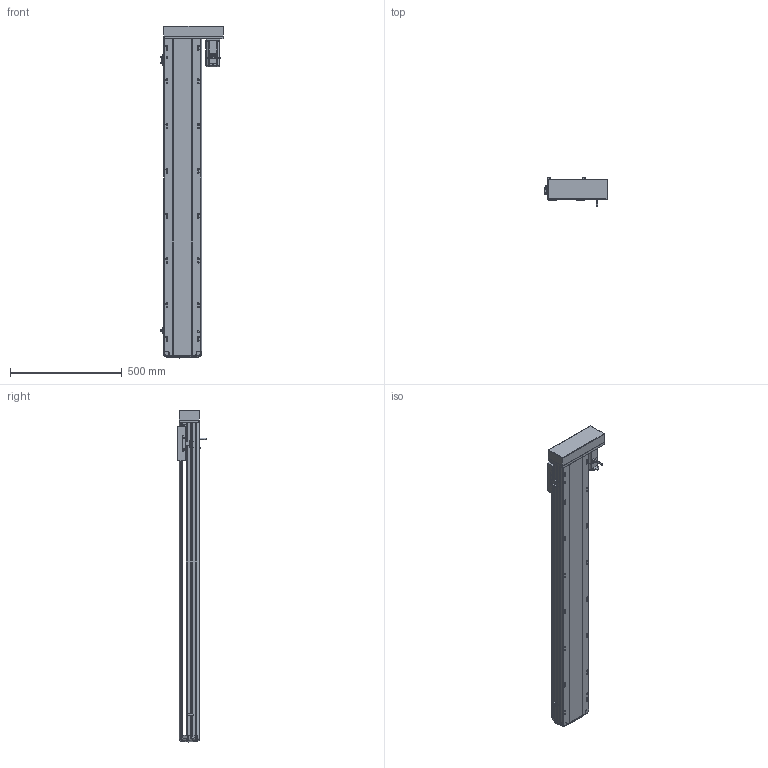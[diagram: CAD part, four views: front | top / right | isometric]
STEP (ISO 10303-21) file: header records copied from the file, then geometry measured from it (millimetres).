
FILE_DESCRIPTION (( 'STEP AP214' ), '1' );
FILE_NAME ('RTH17-XX-1200-L-M40-C4.STEP', '2025-10-24T08:50:18', ( '' ), ( '' ), 'SwSTEP 2.0', 'SolidWorks 2018', '' );
FILE_SCHEMA (( 'AUTOMOTIVE_DESIGN' ));
Length unit declared in the file: millimetre
Products named in the file (10): N_RTH17-L-008-P40电机安装板左转折^RTH17-XX-XX-L-M40-C4（方程式）; RTH17-XX-1200-L-M40-C4; N_RTH17-GY-001P^RTH17-XX-XX-L-M40-C4（方程式）; N_RTH17-L-018盖子^RTH17-XX-XX-L-M40-C4（方程式）; N_RTH17-M-011底座^RTH17-XX-XX-L-M40-C4（方程式）; N_RTH-BL-012 感应片(外置)^RTH17-XX-XX-L-M40-C4（方程式）; N_RTH17-M-007上盖^RTH17-XX-XX-L-M40-C4（方程式）; N_RTH17-E-004丝杆螺母连接座^RTH17-XX-XX-L-M40-C4（方程式）; N_M40^RTH17-XX-XX-L-M40-C4（方程式）; N_OMRON EE-SX672 換覜ん^RTH17-XX-XX-L-M40-C4ㄗ源最宒ㄘ
Assembly tree (11 placements, depth 2):
  RTH17-XX-1200-L-M40-C4
    N_RTH17-M-011底座^RTH17-XX-XX-L-M40-C4（方程式）
    N_RTH17-M-007上盖^RTH17-XX-XX-L-M40-C4（方程式）
    N_M40^RTH17-XX-XX-L-M40-C4（方程式）
    N_OMRON EE-SX672 換覜ん^RTH17-XX-XX-L-M40-C4ㄗ源最宒ㄘ  x3
    N_RTH-BL-012 感应片(外置)^RTH17-XX-XX-L-M40-C4（方程式）
    N_RTH17-L-008-P40电机安装板左转折^RTH17-XX-XX-L-M40-C4（方程式）
    N_RTH17-L-018盖子^RTH17-XX-XX-L-M40-C4（方程式）
    N_RTH17-E-004丝杆螺母连接座^RTH17-XX-XX-L-M40-C4（方程式）
    N_RTH17-GY-001P^RTH17-XX-XX-L-M40-C4（方程式）
Bounding box: 281 x 127 x 1482.99 mm (x, y, z)
Volume: 12249586.7 mm3; surface area: 1560982.2 mm2
Topology: 13 solids, 15 shells, 1695 faces, 4737 edges, 3090 vertices
Faces by surface type: plane 839, cylinder 489, bspline 330, cone 28, torus 9
Entity records: 50010 total; most frequent: CARTESIAN_POINT 20143, ORIENTED_EDGE 6498, DIRECTION 5359, EDGE_CURVE 3253, VERTEX_POINT 2126, VECTOR 1801, LINE 1801, AXIS2_PLACEMENT_3D 1779
